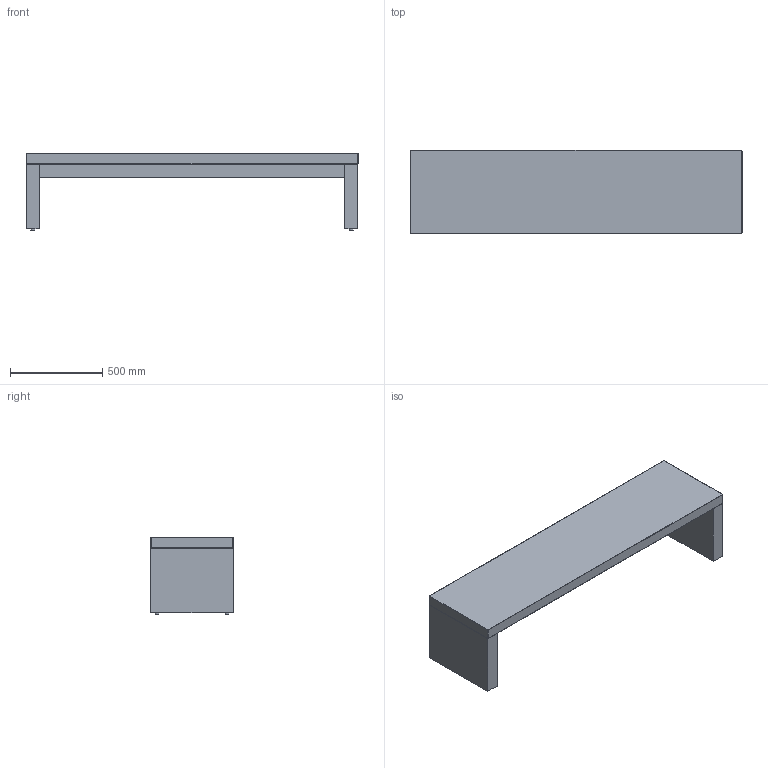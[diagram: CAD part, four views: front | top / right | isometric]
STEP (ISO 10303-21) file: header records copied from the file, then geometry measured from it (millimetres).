
FILE_DESCRIPTION(/* description */ (''),/* implementation_level */ '2;1');
FILE_NAME(/* name */ 'kinoshita_coccole_c472-3',/* time_stamp */ '2026-08-06T15:09:39+09:00',/* author */ (''),/* organization */ (''),/* preprocessor_version */ 'ST-DEVELOPER v16.5',/* originating_system */ '',/* authorisation */ '');
FILE_SCHEMA (('AUTOMOTIVE_DESIGN'));
Length unit declared in the file: millimetre
Products named in the file (1): Document
Bounding box: 1800 x 450 x 420 mm (x, y, z)
Volume: 77413323.1 mm3; surface area: 3066593.1 mm2
Topology: 5 solids, 5 shells, 90 faces, 196 edges, 108 vertices
Faces by surface type: plane 54, bspline 36
Entity records: 2446 total; most frequent: CARTESIAN_POINT 1116, ORIENTED_EDGE 376, EDGE_CURVE 188, B_SPLINE_CURVE_WITH_KNOTS 140, VERTEX_POINT 108, ADVANCED_FACE 90, FACE_OUTER_BOUND 90, EDGE_LOOP 90
